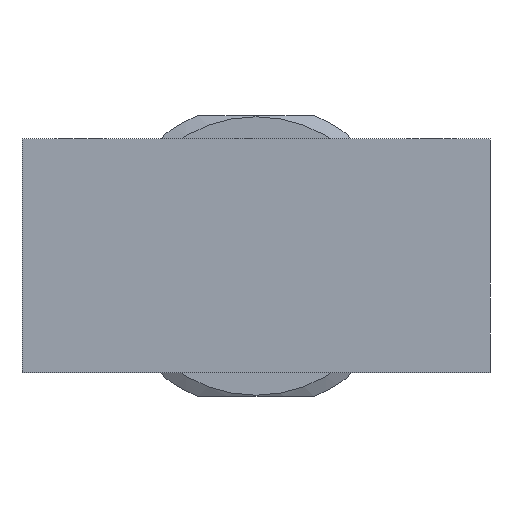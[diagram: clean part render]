
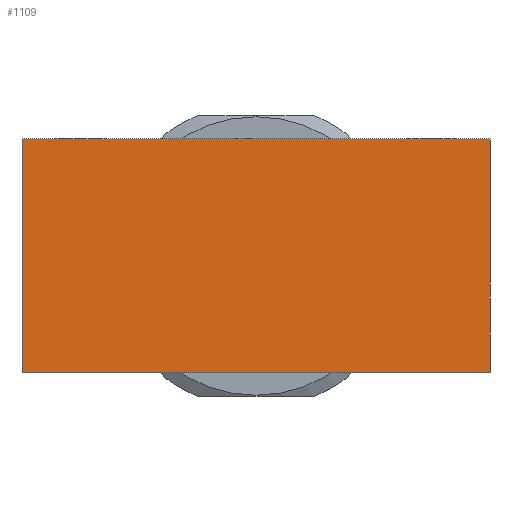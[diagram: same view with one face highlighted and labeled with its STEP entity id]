
A CAD part, left-side view. The second image highlights one B-rep face of the part: STEP entity #1109.
In plain terms, the highlighted planar face has unit normal (-1, 0, 0).
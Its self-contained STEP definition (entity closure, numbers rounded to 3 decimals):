
#68=LINE('',#1766,#98);
#70=LINE('',#1771,#100);
#71=LINE('',#1772,#101);
#72=LINE('',#1773,#102);
#98=VECTOR('',#1449,40.);
#100=VECTOR('',#1453,40.);
#101=VECTOR('',#1454,20.);
#102=VECTOR('',#1455,20.);
#163=PLANE('',#1228);
#270=FACE_OUTER_BOUND('',#373,.T.);
#373=EDGE_LOOP('',(#811,#812,#813,#814));
#547=VERTEX_POINT('',#1763);
#548=VERTEX_POINT('',#1765);
#549=VERTEX_POINT('',#1769);
#550=VERTEX_POINT('',#1770);
#648=EDGE_CURVE('',#548,#547,#68,.T.);
#650=EDGE_CURVE('',#549,#550,#70,.T.);
#651=EDGE_CURVE('',#548,#550,#71,.T.);
#652=EDGE_CURVE('',#549,#547,#72,.T.);
#811=ORIENTED_EDGE('',*,*,#650,.T.);
#812=ORIENTED_EDGE('',*,*,#651,.F.);
#813=ORIENTED_EDGE('',*,*,#648,.T.);
#814=ORIENTED_EDGE('',*,*,#652,.F.);
#1109=ADVANCED_FACE('',(#270),#163,.T.);
#1228=AXIS2_PLACEMENT_3D('',#1768,#1451,#1452);
#1449=DIRECTION('',(0.,-1.,0.));
#1451=DIRECTION('center_axis',(-1.,0.,0.));
#1452=DIRECTION('ref_axis',(0.,0.,1.));
#1453=DIRECTION('',(0.,1.,0.));
#1454=DIRECTION('',(0.,0.,1.));
#1455=DIRECTION('',(0.,0.,-1.));
#1763=CARTESIAN_POINT('',(-12.5,-20.,-10.));
#1765=CARTESIAN_POINT('',(-12.5,20.,-10.));
#1766=CARTESIAN_POINT('',(-12.5,20.,-10.));
#1768=CARTESIAN_POINT('Origin',(-12.5,-20.,0.));
#1769=CARTESIAN_POINT('',(-12.5,-20.,10.));
#1770=CARTESIAN_POINT('',(-12.5,20.,10.));
#1771=CARTESIAN_POINT('',(-12.5,20.,10.));
#1772=CARTESIAN_POINT('',(-12.5,20.,0.));
#1773=CARTESIAN_POINT('',(-12.5,-20.,0.));
